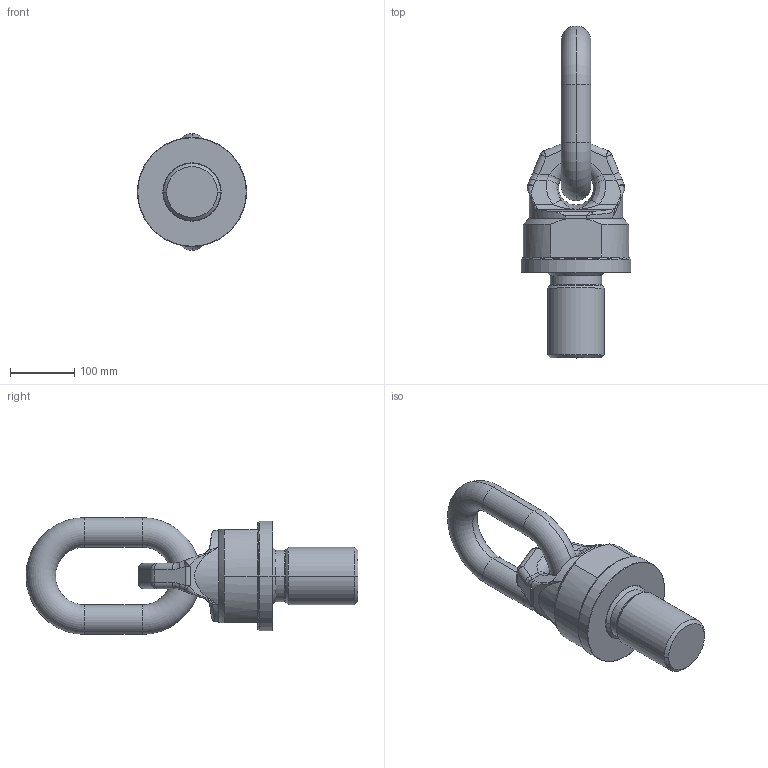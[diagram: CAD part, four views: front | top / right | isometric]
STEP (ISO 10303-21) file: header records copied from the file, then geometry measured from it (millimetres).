
FILE_DESCRIPTION((''),'2;1');
FILE_NAME('001-M33276-P96_ASM','2011-05-11T',('Roland.Jakubetz'),(''),'PRO/ENGINEER BY PARAMETRIC TECHNOLOGY CORPORATION, 2010140','PRO/ENGINEER BY PARAMETRIC TECHNOLOGY CORPORATION, 2010140','');
FILE_SCHEMA(('CONFIG_CONTROL_DESIGN'));
Length unit declared in the file: millimetre
Products named in the file (4): 001-M33276-P96; 001-M31356-P92; 001-M31356-P91; 001-M33276-P96_ASM
Assembly tree (3 placements, depth 2):
  001-M33276-P96_ASM
    001-M33276-P96
    001-M31356-P92
    001-M31356-P91
Bounding box: 170 x 517 x 182 mm (x, y, z)
Volume: 4281210.8 mm3; surface area: 279770.7 mm2
Topology: 3 solids, 3 shells, 726 faces, 1966 edges, 1271 vertices
Faces by surface type: plane 587, cylinder 50, bspline 42, cone 20, torus 14, sphere 13
Entity records: 24075 total; most frequent: CARTESIAN_POINT 6000, ORIENTED_EDGE 3932, DIRECTION 3376, EDGE_CURVE 1966, VECTOR 1706, LINE 1706, VERTEX_POINT 1271, AXIS2_PLACEMENT_3D 835
